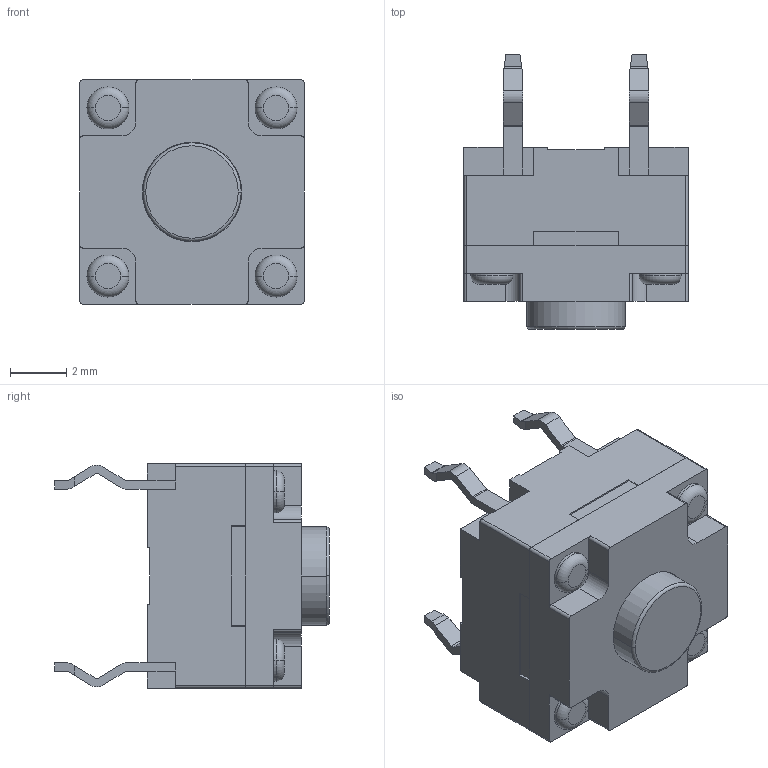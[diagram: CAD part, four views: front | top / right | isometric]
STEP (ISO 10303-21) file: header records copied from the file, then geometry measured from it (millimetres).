
FILE_DESCRIPTION((''),'2;1');
FILE_NAME('JQB8080F-C0651-01G-101_ASM','2026-07-09T10:37:52',('Admin'),(''),'CREO PARAMETRIC BY PTC INC, 2019224','CREO PARAMETRIC BY PTC INC, 2019224','');
FILE_SCHEMA(('AUTOMOTIVE_DESIGN { 1 0 10303 214 1 1 1 1 }'));
Length unit declared in the file: millimetre
Products named in the file (3): JQB8080F-C0651-01G-101_01; JQB8080F-C0651-01G-101_02; JQB8080F-C0651-01G-101_ASM
Assembly tree (2 placements, depth 2):
  JQB8080F-C0651-01G-101_ASM
    JQB8080F-C0651-01G-101_01
    JQB8080F-C0651-01G-101_02
Bounding box: 8 x 9.8 x 8 mm (x, y, z)
Volume: 339.9 mm3; surface area: 543.7 mm2
Topology: 2 solids, 2 shells, 231 faces, 634 edges, 430 vertices
Faces by surface type: plane 149, cylinder 72, torus 10
Entity records: 10342 total; most frequent: CARTESIAN_POINT 1329, DIRECTION 1250, ORIENTED_EDGE 1248, PRESENTATION_STYLE_ASSIGNMENT 715, STYLED_ITEM 639, CURVE_STYLE 637, EDGE_CURVE 624, VECTOR 470
